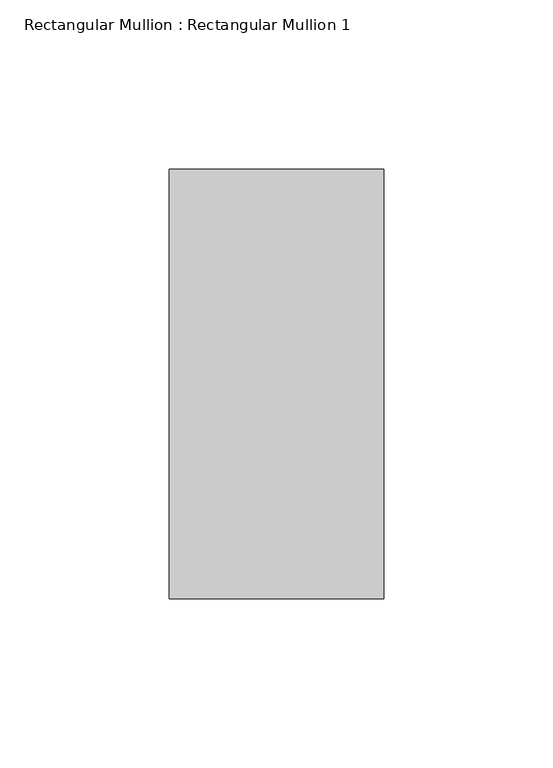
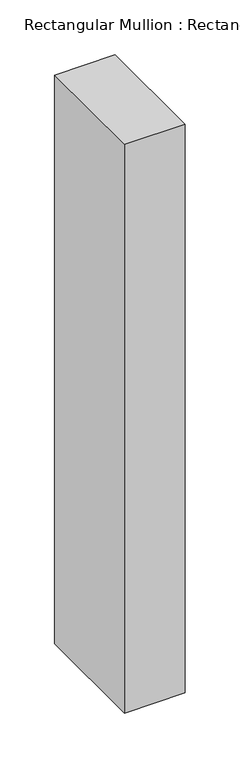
"""IFC4 building model written with IfcOpenShell, lengths in millimetres: member geometry, Rectangular Mullion : Rectangular Mullion 1."""

import ifcopenshell
import ifcopenshell.guid

model = None  # the IFC model being written
_history = None  # IfcOwnerHistory: only IFC2X3 demands one
_inside = {}  # id of a spatial element -> (the spatial element, [elements in it])
_under = {}  # id of a project, library or spatial element -> (it, [spatial elements below it])
_declared = {}  # id of a project -> (the project, [libraries it declares])
_typed = {}  # id of a type object -> (the type object, [elements of that type])
_made_of = {}  # id of a material, layer set ... -> (it, [elements and type objects made of it])


def new_model(schema):
    """Start an empty IFC model of exactly this schema.

    Asked for "IFC4X3", IfcOpenShell would pick the latest addendum, in which some entities
    have other attributes; the version numbers below select the first issue.
    IFC2X3 requires an IfcOwnerHistory on every rooted entity: one is made here for all.
    """
    global model, _history
    if schema == "IFC4X3":
        model = ifcopenshell.file(schema_version=(4, 3, 0, 0))
    else:
        model = ifcopenshell.file(schema=schema)
    _inside.clear()
    _under.clear()
    _declared.clear()
    _typed.clear()
    _made_of.clear()
    _history = None
    if model.schema == "IFC2X3":
        org = make("IfcOrganization", Name="unknown")
        user = make(
            "IfcPersonAndOrganization",
            ThePerson=make("IfcPerson", FamilyName="unknown"),
            TheOrganization=org,
        )
        app = make(
            "IfcApplication",
            ApplicationDeveloper=org,
            Version="unknown",
            ApplicationFullName="unknown",
            ApplicationIdentifier="unknown",
        )
        _history = make(
            "IfcOwnerHistory",
            OwningUser=user,
            OwningApplication=app,
            ChangeAction="ADDED",
            CreationDate=0,
        )
    return model


def make(cls, **values):
    """One entity of the class cls with the attributes given. An attribute that is None is left unset."""
    return model.create_entity(
        cls, **{name: value for name, value in values.items() if value is not None}
    )


def rooted(cls, **values):
    """An entity with a GlobalId (a new one), such as an element, a storey or a relation."""
    return make(cls, GlobalId=ifcopenshell.guid.new(), OwnerHistory=_history, **values)


def si_unit(unit_type, name, prefix=None):
    """IfcSIUnit, for example si_unit("LENGTHUNIT", "METRE", prefix="MILLI")."""
    return make("IfcSIUnit", UnitType=unit_type, Prefix=prefix, Name=name)


def assignment(units):
    """IfcUnitAssignment: the units of a project."""
    return None if units is None else make("IfcUnitAssignment", Units=units)


def point(xyz):
    """IfcCartesianPoint."""
    return None if xyz is None else make("IfcCartesianPoint", Coordinates=xyz)


def direction(xyz):
    """IfcDirection."""
    return None if xyz is None else make("IfcDirection", DirectionRatios=xyz)


def frame(location, z_axis=None, x_axis=None):
    """IfcAxis2Placement3D, a coordinate frame: its origin and axes. An axis left out is left unset."""
    return make(
        "IfcAxis2Placement3D",
        Location=point(location),
        Axis=direction(z_axis),
        RefDirection=direction(x_axis),
    )


def origin():
    """The frame at (0, 0, 0) with its axes left unset."""
    return frame((0.0, 0.0, 0.0))


def place(relative_to, where):
    """IfcLocalPlacement: puts the frame where relative to a parent placement (None: the world)."""
    return make(
        "IfcLocalPlacement", PlacementRelTo=relative_to, RelativePlacement=where
    )


def context(
    kind, dimensions, precision=None, world=None, true_north=None, identifier=None
):
    """IfcGeometricRepresentationContext, for example the 3D "Model" context."""
    return make(
        "IfcGeometricRepresentationContext",
        ContextIdentifier=identifier,
        ContextType=kind,
        CoordinateSpaceDimension=dimensions,
        Precision=precision,
        WorldCoordinateSystem=world,
        TrueNorth=true_north,
    )


def project(units=None, contexts=None):
    """IfcProject with its units and contexts."""
    return rooted(
        "IfcProject",
        Name="project",
        RepresentationContexts=contexts,
        UnitsInContext=assignment(units),
    )


def spatial(cls, under=None, at=None, **own):
    """A site, building, storey or space (cls), placed at a placement, below another one or the project."""
    s = rooted(cls, ObjectPlacement=at, **own)
    if under is not None:
        _under.setdefault(under.id(), (under, []))[1].append(s)
    return s


def polyline(points):
    """IfcPolyline through the points."""
    return make("IfcPolyline", Points=[point(p) for p in points])


def outline(outer, holes=None, kind="AREA"):
    """IfcArbitraryClosedProfileDef: a profile drawn as a closed curve; with holes, ...WithVoids."""
    if holes is None:
        return make("IfcArbitraryClosedProfileDef", ProfileType=kind, OuterCurve=outer)
    return make(
        "IfcArbitraryProfileDefWithVoids",
        ProfileType=kind,
        OuterCurve=outer,
        InnerCurves=holes,
    )


def extrude(swept, where, along, depth):
    """IfcExtrudedAreaSolid: the profile swept, set in the frame where, extruded along a direction by depth."""
    return make(
        "IfcExtrudedAreaSolid",
        SweptArea=swept,
        Position=where,
        ExtrudedDirection=direction(along),
        Depth=depth,
    )


def shape(context_of_items, identifier, shape_type, items):
    """IfcShapeRepresentation: the items that make up one representation, for example the "Body"."""
    return make(
        "IfcShapeRepresentation",
        ContextOfItems=context_of_items,
        RepresentationIdentifier=identifier,
        RepresentationType=shape_type,
        Items=items,
    )


def source(mapping_origin, context_of_items, identifier, shape_type, items):
    """IfcRepresentationMap: a shape defined once, which mapped items show again and again."""
    return make(
        "IfcRepresentationMap",
        MappingOrigin=mapping_origin,
        MappedRepresentation=shape(context_of_items, identifier, shape_type, items),
    )


def transform(
    local_origin,
    x_axis=None,
    y_axis=None,
    z_axis=None,
    scale=None,
    scale2=None,
    scale3=None,
    uniform=True,
):
    """IfcCartesianTransformationOperator3D, or its non-uniform kind. x_axis, y_axis, z_axis: its Axis1, 2, 3."""
    if uniform:
        return make(
            "IfcCartesianTransformationOperator3D",
            Axis1=direction(x_axis),
            Axis2=direction(y_axis),
            LocalOrigin=point(local_origin),
            Scale=scale,
            Axis3=direction(z_axis),
        )
    return make(
        "IfcCartesianTransformationOperator3DnonUniform",
        Axis1=direction(x_axis),
        Axis2=direction(y_axis),
        LocalOrigin=point(local_origin),
        Scale=scale,
        Axis3=direction(z_axis),
        Scale2=scale2,
        Scale3=scale3,
    )


def mapped(mapping_source, mapping_target):
    """IfcMappedItem: shows the shape of a source again, moved by a transform."""
    return make(
        "IfcMappedItem", MappingSource=mapping_source, MappingTarget=mapping_target
    )


def made_of(thing, what):
    """Note that an element or type object is made of a material, layer set ...; save() writes the relation."""
    if what is not None:
        _made_of.setdefault(what.id(), (what, []))[1].append(thing)
    return thing


def element(
    cls,
    number,
    at=None,
    inside=None,
    cuts=None,
    type_object=None,
    material=None,
    context=None,
    identifier="Body",
    shape_type=None,
    held_by="IfcProductDefinitionShape",
    body=None,
    shapes=None,
    **own,
):
    """One element of the class cls, such as IfcWall. Its Tag is "e" and its number.

    at: its placement. inside: the storey or other place that contains it. cuts: it is an
    opening in that element (IfcRelVoidsElement). A single representation is given by context,
    identifier, shape_type and body (its items); several are given by shapes. held_by: the class
    of the entity that holds the representations. save() writes the other relations.
    """
    e = rooted(cls, Tag="e%d" % number, ObjectPlacement=at, **own)
    if body is not None:
        shapes = [shape(context, identifier, shape_type, body)]
    if shapes is not None:
        e.Representation = make(held_by, Representations=shapes)
    if inside is not None:
        _inside.setdefault(inside.id(), (inside, []))[1].append(e)
    if cuts is not None:
        rooted(
            "IfcRelVoidsElement", RelatingBuildingElement=cuts, RelatedOpeningElement=e
        )
    if type_object is not None:
        _typed.setdefault(type_object.id(), (type_object, []))[1].append(e)
    return made_of(e, material)


def aggregate(whole, parts):
    """IfcRelAggregates: a whole, such as a stair, and the parts it consists of."""
    return rooted("IfcRelAggregates", RelatingObject=whole, RelatedObjects=parts)


def save(model, path):
    """Write the relations noted so far, then the file.

    IfcRelAggregates (storeys below a building ...), IfcRelContainedInSpatialStructure (elements
    in a storey), IfcRelDefinesByType, IfcRelAssociatesMaterial and IfcRelDeclares: one each for
    every whole, place, type object, material and project.
    """
    for whole, parts in _under.values():
        aggregate(whole, parts)
    for where, things in _inside.values():
        rooted(
            "IfcRelContainedInSpatialStructure",
            RelatedElements=things,
            RelatingStructure=where,
        )
    for kind, things in _typed.values():
        rooted("IfcRelDefinesByType", RelatedObjects=things, RelatingType=kind)
    for what, things in _made_of.values():
        rooted("IfcRelAssociatesMaterial", RelatedObjects=things, RelatingMaterial=what)
    for by, libraries in _declared.values():
        rooted("IfcRelDeclares", RelatingContext=by, RelatedDefinitions=libraries)
    model.write(path)


def rectangular_mullion_rectangular_mullion_1_0b666476(model_context):
    return source(origin(), model_context, "Body", "SweptSolid", [
        extrude(outline(polyline([(31.75, 63.5), (31.75, -63.5), (-31.75, -63.5), (-31.75, 63.5), (31.75, 63.5)])), frame((0.0, 0.0, -631.2975583), z_axis=(0.0, 0.0, 1.0), x_axis=(1.0, 0.0, 0.0)), (0.0, 0.0, 1.0), 631.2975583),
    ])


if __name__ == "__main__":
    model = new_model("IFC4")
    model_context = context("Model", 3, world=origin())
    ifc_project = project(units=[si_unit("LENGTHUNIT", "METRE", prefix="MILLI")], contexts=[model_context])
    site = spatial("IfcSite", under=ifc_project)
    building = spatial("IfcBuilding", under=site)
    placement = place(None, origin())
    rectangular_mullion_rectangular_mullion_1_shape = rectangular_mullion_rectangular_mullion_1_0b666476(model_context)
    element("IfcMember", 1, ObjectType="Rectangular Mullion : Rectangular Mullion 1", at=placement, inside=building, context=model_context, shape_type="MappedRepresentation", body=[
        mapped(rectangular_mullion_rectangular_mullion_1_shape, transform((0.0, 0.0, 0.0), x_axis=(1.0, 0.0, 0.0), y_axis=(0.0, 1.0, 0.0), z_axis=(0.0, 0.0, 1.0))),
    ])
    save(model, "model.ifc")
